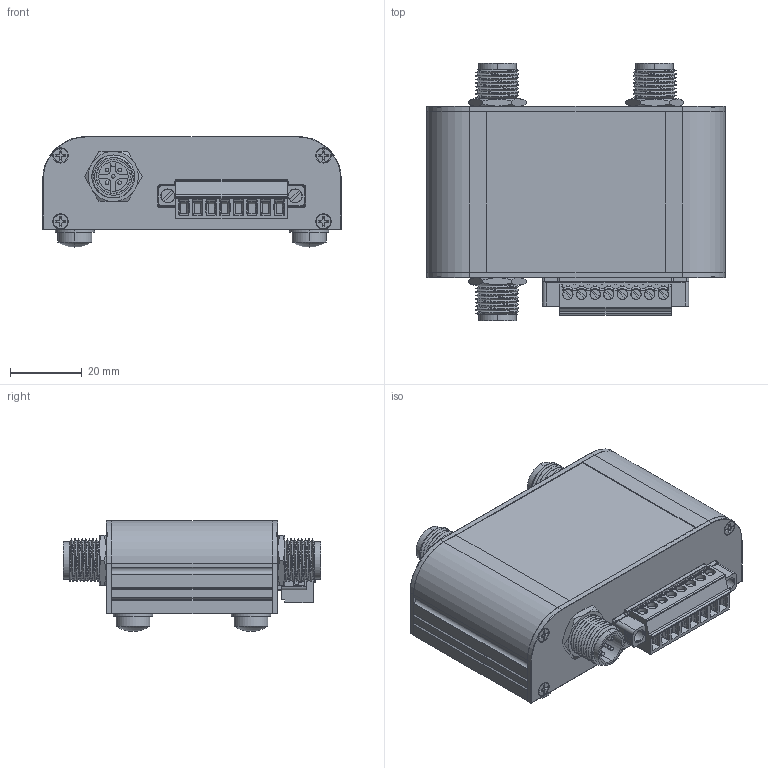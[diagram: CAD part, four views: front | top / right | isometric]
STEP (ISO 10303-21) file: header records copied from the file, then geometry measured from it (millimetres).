
FILE_DESCRIPTION (( 'STEP AP214' ), '1' );
FILE_NAME ('Sdoppiatore Top DOCK04.STEP', '2014-05-15T07:30:28', ( 'davide' ), ( '' ), 'SwSTEP 2.0', 'SolidWorks 2014', '' );
FILE_SCHEMA (( 'AUTOMOTIVE_DESIGN' ));
Length unit declared in the file: millimetre
Products named in the file (1): Sdoppiatore Top DOCK04
Bounding box: 83.5 x 72 x 31 mm (x, y, z)
Volume: 33463.7 mm3; surface area: 50361.9 mm2
Topology: 23 solids, 23 shells, 2890 faces, 7190 edges, 4475 vertices
Faces by surface type: plane 1312, cylinder 994, cone 430, bspline 114, torus 40
Entity records: 124020 total; most frequent: CARTESIAN_POINT 23486, DIRECTION 14410, ORIENTED_EDGE 14248, EDGE_CURVE 7124, AXIS2_PLACEMENT_3D 5043, VERTEX_POINT 4473, LINE 4324, VECTOR 4324
